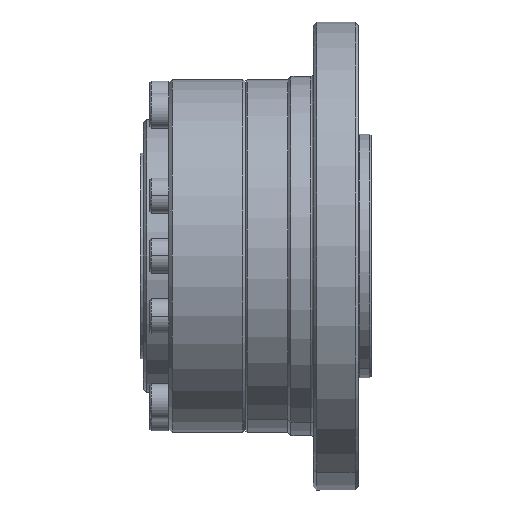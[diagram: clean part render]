
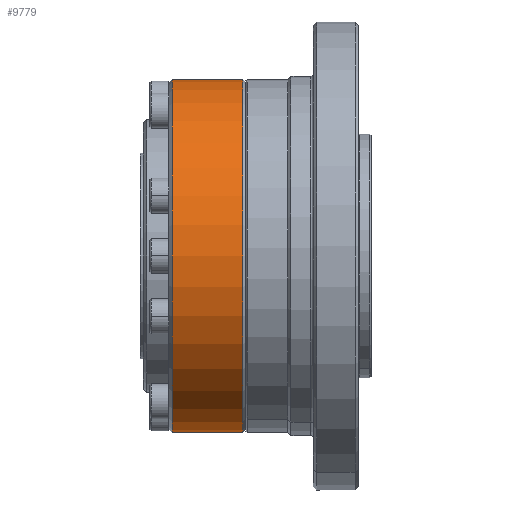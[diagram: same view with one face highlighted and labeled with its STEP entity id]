
A CAD part, front view. The second image highlights one B-rep face of the part: STEP entity #9779.
In plain terms, the highlighted cylindrical face has radius 27.5 mm (diameter 55 mm), a partial arc.
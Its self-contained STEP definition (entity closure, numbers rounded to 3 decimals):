
#200 = VERTEX_POINT ( 'NONE', #1919 ) ;
#278 = ORIENTED_EDGE ( 'NONE', *, *, #20465, .T. ) ;
#296 = CARTESIAN_POINT ( 'NONE',  ( -33.708, 0.104, 45.5 ) ) ;
#1120 = DIRECTION ( 'NONE',  ( -1., 0., 0. ) ) ;
#1689 = CARTESIAN_POINT ( 'NONE',  ( -22.708, 0.104, 73. ) ) ;
#1919 = CARTESIAN_POINT ( 'NONE',  ( -33.708, 0.104, 100.5 ) ) ;
#2225 = EDGE_CURVE ( 'NONE', #16845, #7981, #14017, .T. ) ;
#2704 = VECTOR ( 'NONE', #1120, 1000. ) ;
#2800 = CARTESIAN_POINT ( 'NONE',  ( -22.708, 0.104, 100.5 ) ) ;
#3450 = DIRECTION ( 'NONE',  ( 0., 0., -1. ) ) ;
#4329 = CARTESIAN_POINT ( 'NONE',  ( -22.208, 0.104, 73. ) ) ;
#4523 = VERTEX_POINT ( 'NONE', #2800 ) ;
#4706 = AXIS2_PLACEMENT_3D ( 'NONE', #7095, #19531, #8885 ) ;
#4884 = DIRECTION ( 'NONE',  ( 0., 0., 1. ) ) ;
#4975 = ORIENTED_EDGE ( 'NONE', *, *, #10994, .T. ) ;
#5123 = DIRECTION ( 'NONE',  ( -1., 0., 0. ) ) ;
#7095 = CARTESIAN_POINT ( 'NONE',  ( -33.708, 0.104, 73. ) ) ;
#7176 = ORIENTED_EDGE ( 'NONE', *, *, #2225, .F. ) ;
#7981 = VERTEX_POINT ( 'NONE', #296 ) ;
#8885 = DIRECTION ( 'NONE',  ( 0., 0., 1. ) ) ;
#9306 = VECTOR ( 'NONE', #18384, 1000. ) ;
#9779 = ADVANCED_FACE ( 'NONE', ( #21925 ), #16610, .T. ) ;
#10435 = EDGE_LOOP ( 'NONE', ( #7176, #4975, #15819, #278 ) ) ;
#10994 = EDGE_CURVE ( 'NONE', #16845, #4523, #11781, .T. ) ;
#11239 = AXIS2_PLACEMENT_3D ( 'NONE', #4329, #5123, #4884 ) ;
#11781 = CIRCLE ( 'NONE', #17798, 27.5 ) ;
#11844 = CARTESIAN_POINT ( 'NONE',  ( -22.208, 0.104, 100.5 ) ) ;
#12194 = LINE ( 'NONE', #11844, #2704 ) ;
#13327 = CARTESIAN_POINT ( 'NONE',  ( -22.708, 0.104, 45.5 ) ) ;
#14017 = LINE ( 'NONE', #20664, #9306 ) ;
#14117 = DIRECTION ( 'NONE',  ( -1., 0., 0. ) ) ;
#15819 = ORIENTED_EDGE ( 'NONE', *, *, #16247, .T. ) ;
#16247 = EDGE_CURVE ( 'NONE', #4523, #200, #12194, .T. ) ;
#16610 = CYLINDRICAL_SURFACE ( 'NONE', #11239, 27.5 ) ;
#16845 = VERTEX_POINT ( 'NONE', #13327 ) ;
#17798 = AXIS2_PLACEMENT_3D ( 'NONE', #1689, #14117, #3450 ) ;
#18384 = DIRECTION ( 'NONE',  ( -1., 0., 0. ) ) ;
#18658 = CIRCLE ( 'NONE', #4706, 27.5 ) ;
#19531 = DIRECTION ( 'NONE',  ( 1., 0., 0. ) ) ;
#20465 = EDGE_CURVE ( 'NONE', #200, #7981, #18658, .T. ) ;
#20664 = CARTESIAN_POINT ( 'NONE',  ( -22.208, 0.104, 45.5 ) ) ;
#21925 = FACE_OUTER_BOUND ( 'NONE', #10435, .T. ) ;
